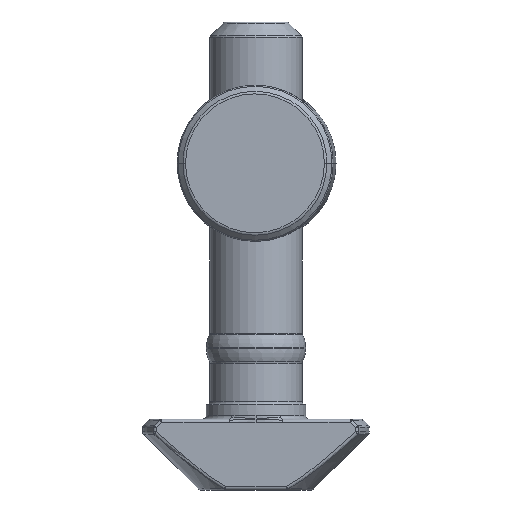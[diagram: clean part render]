
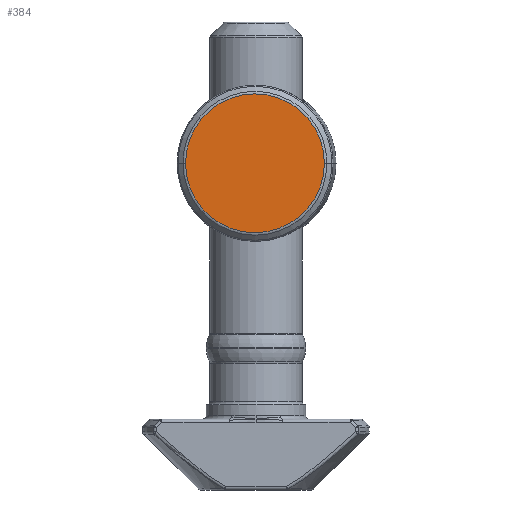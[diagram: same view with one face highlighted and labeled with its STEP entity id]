
A CAD part, front view. The second image highlights one B-rep face of the part: STEP entity #384.
In plain terms, the highlighted planar face has unit normal (-0.013, -1, 0) as drawn and (0, -1, 0) by its records, which use the part's own axes.
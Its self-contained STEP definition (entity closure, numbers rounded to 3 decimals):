
#43 = CIRCLE ( 'NONE', #7192, 4.896 ) ;
#183 = FACE_OUTER_BOUND ( 'NONE', #6619, .T. ) ;
#384 = ADVANCED_FACE ( 'NONE', ( #183 ), #3630, .F. ) ;
#854 = ORIENTED_EDGE ( 'NONE', *, *, #2068, .T. ) ;
#1038 = CARTESIAN_POINT ( 'NONE',  ( 0., 0., 0. ) ) ;
#1681 = CARTESIAN_POINT ( 'NONE',  ( 0., 0., 0. ) ) ;
#1875 = DIRECTION ( 'NONE',  ( 0., 0., 1. ) ) ;
#2068 = EDGE_CURVE ( 'NONE', #5012, #5872, #43, .T. ) ;
#2522 = DIRECTION ( 'NONE',  ( 0., 0., 1. ) ) ;
#2902 = EDGE_CURVE ( 'NONE', #5872, #5012, #6511, .T. ) ;
#3630 = PLANE ( 'NONE',  #7246 ) ;
#4458 = DIRECTION ( 'NONE',  ( 0., 0., 1. ) ) ;
#5012 = VERTEX_POINT ( 'NONE', #8134 ) ;
#5535 = CARTESIAN_POINT ( 'NONE',  ( 0., 0., 4.896 ) ) ;
#5662 = AXIS2_PLACEMENT_3D ( 'NONE', #1681, #7456, #2522 ) ;
#5872 = VERTEX_POINT ( 'NONE', #5535 ) ;
#6511 = CIRCLE ( 'NONE', #5662, 4.896 ) ;
#6619 = EDGE_LOOP ( 'NONE', ( #9200, #854 ) ) ;
#6819 = DIRECTION ( 'NONE',  ( 0., -1., 0. ) ) ;
#6917 = CARTESIAN_POINT ( 'NONE',  ( 0., 0., 0. ) ) ;
#7192 = AXIS2_PLACEMENT_3D ( 'NONE', #1038, #6819, #1875 ) ;
#7246 = AXIS2_PLACEMENT_3D ( 'NONE', #6917, #9388, #4458 ) ;
#7456 = DIRECTION ( 'NONE',  ( 0., -1., 0. ) ) ;
#8134 = CARTESIAN_POINT ( 'NONE',  ( 0., 0., -4.896 ) ) ;
#9200 = ORIENTED_EDGE ( 'NONE', *, *, #2902, .T. ) ;
#9388 = DIRECTION ( 'NONE',  ( 0., 1., 0. ) ) ;
